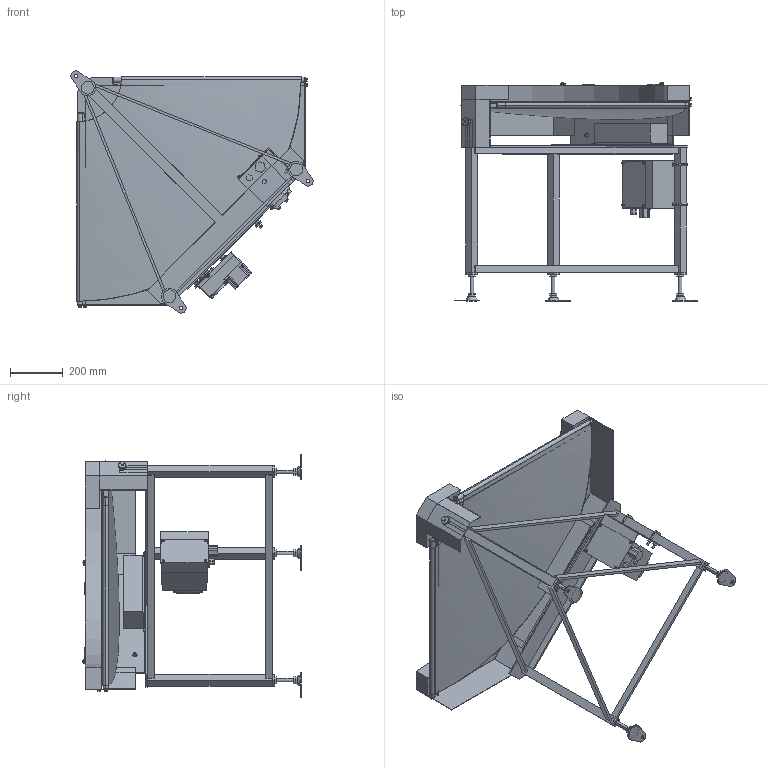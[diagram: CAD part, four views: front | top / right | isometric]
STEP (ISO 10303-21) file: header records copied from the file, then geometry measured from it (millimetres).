
FILE_DESCRIPTION (( 'STEP AP214' ), '1' );
FILE_NAME ('GFBC90-HS600-DC-L.STEP', '2024-01-18T02:50:55', ( '' ), ( '' ), 'SwSTEP 2.0', 'SolidWorks 2017', '' );
FILE_SCHEMA (( 'AUTOMOTIVE_DESIGN' ));
Length unit declared in the file: millimetre
Products named in the file (1): GFBC90-HS600-DC-L
Bounding box: 917.16 x 827.92 x 917.16 mm (x, y, z)
Volume: 23885879.8 mm3; surface area: 5906846.6 mm2
Topology: 64 solids, 65 shells, 1402 faces, 3271 edges, 2090 vertices
Faces by surface type: plane 857, cylinder 408, cone 73, bspline 40, torus 20, sphere 4
Entity records: 47268 total; most frequent: CARTESIAN_POINT 14225, DIRECTION 6746, ORIENTED_EDGE 6494, EDGE_CURVE 3247, AXIS2_PLACEMENT_3D 2337, VERTEX_POINT 2090, LINE 2072, VECTOR 2072
